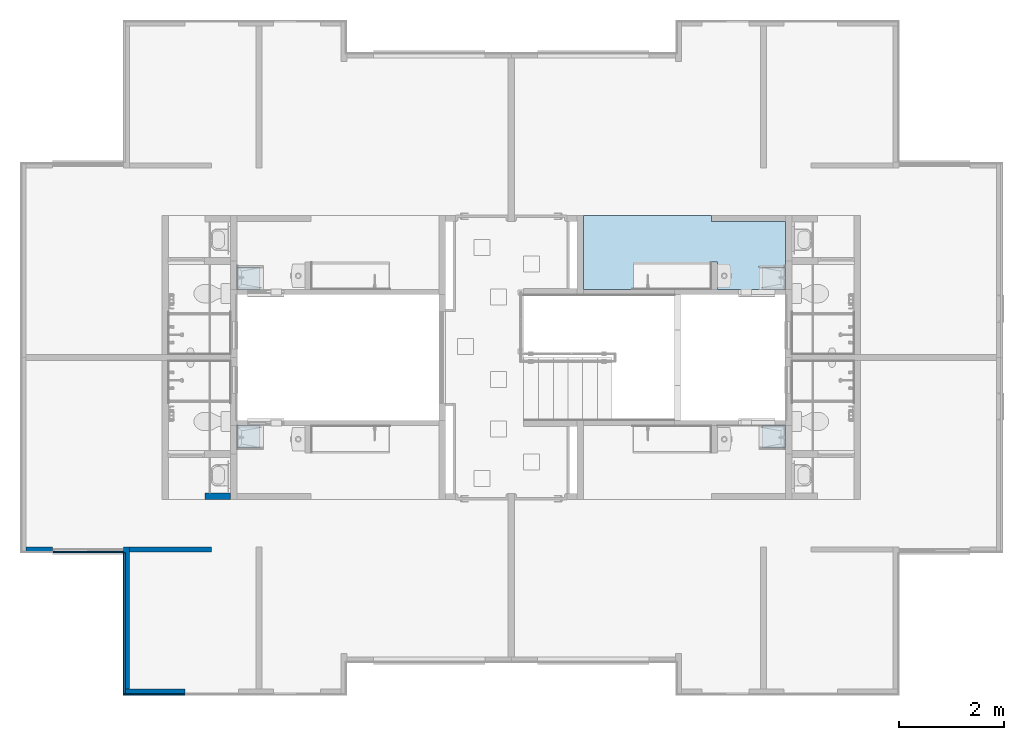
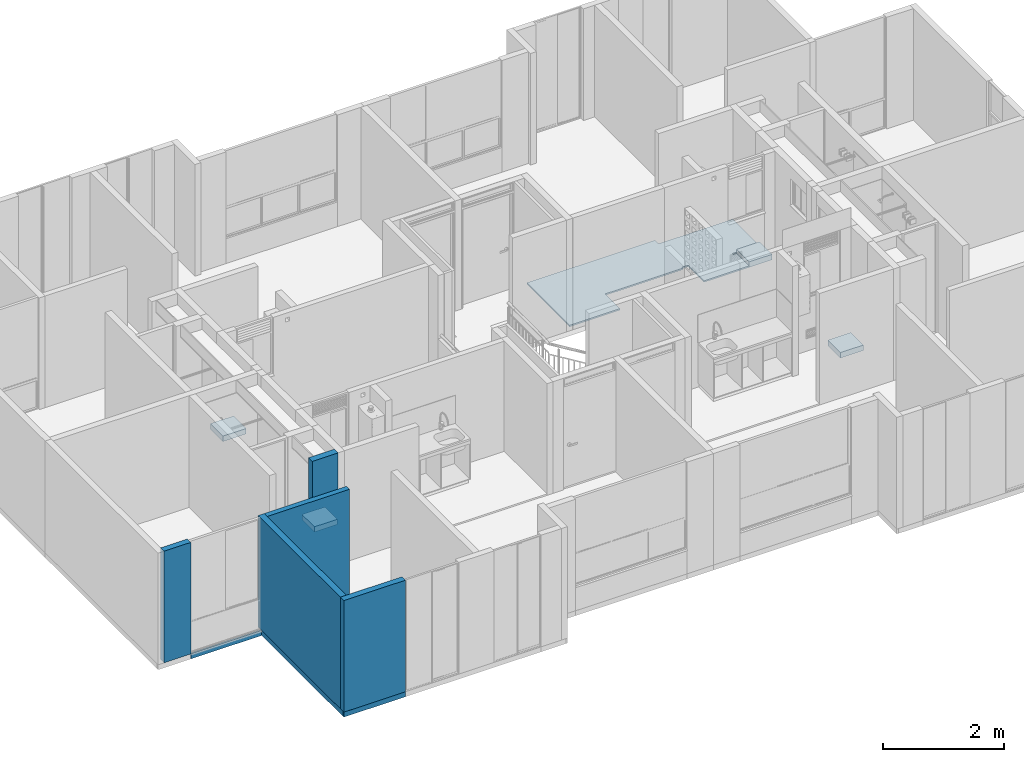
# One storey, part 3 of 47: 8 walls, 5 slabs.
"""IFC4 building model written with IfcOpenShell, lengths in metres."""

from ifc_helpers import new_model, entity, si_unit, converted_unit, derived_unit, direction, frame, origin, place, context, subcontext, project, spatial, indexed_curve, outline, extrude, material, constituent, constituent_set, type_object, element, save


model = new_model("IFC4")

# Units and contexts
model_context = context("Model", 3, precision=1e-05, world=origin(), true_north=direction((6.123031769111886e-17, 1.0)))
body_context = subcontext(model_context, "Body", "Model", "MODEL_VIEW")
ifc_project = project(units=[si_unit("LENGTHUNIT", "METRE"), si_unit("AREAUNIT", "SQUARE_METRE"), si_unit("VOLUMEUNIT", "CUBIC_METRE"), converted_unit("PLANEANGLEUNIT", "DEGREE", entity("IfcRatioMeasure", 0.017453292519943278), si_unit("PLANEANGLEUNIT", "RADIAN"), dimensions=[0, 0, 0, 0, 0, 0, 0]), si_unit("MASSUNIT", "GRAM", prefix="KILO"), derived_unit("MASSDENSITYUNIT", [(si_unit("MASSUNIT", "GRAM", prefix="KILO"), 1), (si_unit("LENGTHUNIT", "METRE"), -3)]), derived_unit("IONCONCENTRATIONUNIT", [(si_unit("MASSUNIT", "GRAM", prefix="KILO"), 1), (si_unit("LENGTHUNIT", "METRE"), -3)]), derived_unit("MOMENTOFINERTIAUNIT", [(si_unit("LENGTHUNIT", "METRE"), 4)]), si_unit("TIMEUNIT", "SECOND"), si_unit("FREQUENCYUNIT", "HERTZ"), si_unit("THERMODYNAMICTEMPERATUREUNIT", "DEGREE_CELSIUS"), derived_unit("THERMALTRANSMITTANCEUNIT", [(si_unit("MASSUNIT", "GRAM", prefix="KILO"), 1), (si_unit("THERMODYNAMICTEMPERATUREUNIT", "KELVIN"), -1), (si_unit("TIMEUNIT", "SECOND"), -3)]), derived_unit("THERMALCONDUCTANCEUNIT", [(si_unit("MASSUNIT", "GRAM", prefix="KILO"), 1), (si_unit("THERMODYNAMICTEMPERATUREUNIT", "KELVIN"), -1), (si_unit("TIMEUNIT", "SECOND"), -3), (si_unit("LENGTHUNIT", "METRE"), 1)]), derived_unit("VOLUMETRICFLOWRATEUNIT", [(si_unit("LENGTHUNIT", "METRE"), 3), (si_unit("TIMEUNIT", "SECOND"), -1)]), derived_unit("MASSFLOWRATEUNIT", [(si_unit("MASSUNIT", "GRAM", prefix="KILO"), 1), (si_unit("TIMEUNIT", "SECOND"), -1)]), derived_unit("ROTATIONALFREQUENCYUNIT", [(si_unit("TIMEUNIT", "SECOND"), -1)]), si_unit("ELECTRICCURRENTUNIT", "AMPERE"), si_unit("ELECTRICVOLTAGEUNIT", "VOLT"), si_unit("POWERUNIT", "WATT"), si_unit("FORCEUNIT", "NEWTON", prefix="KILO"), si_unit("ILLUMINANCEUNIT", "LUX"), si_unit("LUMINOUSFLUXUNIT", "LUMEN"), si_unit("LUMINOUSINTENSITYUNIT", "CANDELA"), derived_unit("USERDEFINED", [(si_unit("MASSUNIT", "GRAM", prefix="KILO"), -1), (si_unit("LENGTHUNIT", "METRE"), -2), (si_unit("TIMEUNIT", "SECOND"), 3), (si_unit("LUMINOUSFLUXUNIT", "LUMEN"), 1)]), derived_unit("USERDEFINED", [(si_unit("MASSUNIT", "GRAM", prefix="KILO"), 1), (si_unit("TIMEUNIT", "SECOND"), -3), (si_unit("LENGTHUNIT", "METRE"), 3), (si_unit("ELECTRICCURRENTUNIT", "AMPERE"), -2)]), derived_unit("SOUNDPOWERUNIT", [(si_unit("MASSUNIT", "GRAM", prefix="KILO"), 1), (si_unit("TIMEUNIT", "SECOND"), -3), (si_unit("LENGTHUNIT", "METRE"), 2)]), derived_unit("SOUNDPRESSUREUNIT", [(si_unit("MASSUNIT", "GRAM", prefix="KILO"), 1), (si_unit("LENGTHUNIT", "METRE"), -1), (si_unit("TIMEUNIT", "SECOND"), -2)]), derived_unit("LINEARVELOCITYUNIT", [(si_unit("LENGTHUNIT", "METRE"), 1), (si_unit("TIMEUNIT", "SECOND"), -1)]), si_unit("PRESSUREUNIT", "PASCAL"), derived_unit("USERDEFINED", [(si_unit("MASSUNIT", "GRAM", prefix="KILO"), 1), (si_unit("LENGTHUNIT", "METRE"), -2), (si_unit("TIMEUNIT", "SECOND"), -2)]), derived_unit("LINEARFORCEUNIT", [(si_unit("MASSUNIT", "GRAM", prefix="KILO"), 1), (si_unit("TIMEUNIT", "SECOND"), -2)]), derived_unit("PLANARFORCEUNIT", [(si_unit("MASSUNIT", "GRAM", prefix="KILO"), 1), (si_unit("LENGTHUNIT", "METRE"), -1), (si_unit("TIMEUNIT", "SECOND"), -2)]), derived_unit("SPECIFICHEATCAPACITYUNIT", [(si_unit("THERMODYNAMICTEMPERATUREUNIT", "KELVIN"), -1), (si_unit("LENGTHUNIT", "METRE"), 2), (si_unit("TIMEUNIT", "SECOND"), -2)]), derived_unit("HEATINGVALUEUNIT", [(si_unit("LENGTHUNIT", "METRE"), 2), (si_unit("TIMEUNIT", "SECOND"), -2)]), derived_unit("VAPORPERMEABILITYUNIT", [(si_unit("LENGTHUNIT", "METRE"), -1), (si_unit("TIMEUNIT", "SECOND"), 1)]), derived_unit("DYNAMICVISCOSITYUNIT", [(si_unit("MASSUNIT", "GRAM", prefix="KILO"), 1), (si_unit("TIMEUNIT", "SECOND"), -1), (si_unit("LENGTHUNIT", "METRE"), -1)]), derived_unit("THERMALEXPANSIONCOEFFICIENTUNIT", [(si_unit("THERMODYNAMICTEMPERATUREUNIT", "KELVIN"), -1)]), derived_unit("MODULUSOFELASTICITYUNIT", [(si_unit("MASSUNIT", "GRAM", prefix="KILO"), 1), (si_unit("LENGTHUNIT", "METRE"), -1), (si_unit("TIMEUNIT", "SECOND"), -2)]), derived_unit("ISOTHERMALMOISTURECAPACITYUNIT", [(si_unit("LENGTHUNIT", "METRE"), 3), (si_unit("MASSUNIT", "GRAM", prefix="KILO"), -1)]), derived_unit("MOISTUREDIFFUSIVITYUNIT", [(si_unit("TIMEUNIT", "SECOND"), -1), (si_unit("LENGTHUNIT", "METRE"), 2)])], contexts=[model_context])

# Site, building, storey
site_placement = place(None, origin())
site = spatial("IfcSite", under=ifc_project, at=site_placement, Name="Default", CompositionType="ELEMENT")
building_placement = place(site_placement, origin())
building = spatial("IfcBuilding", under=site, at=building_placement, CompositionType="ELEMENT")
storey_placement = place(building_placement, frame((0.0, 0.0, 11.750000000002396)))
storey = spatial("IfcBuildingStorey", under=building, at=storey_placement, Name="Nivel 6", CompositionType="ELEMENT", Elevation=11.750000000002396)

# Slabs
ifc_material_1 = material(Name="Ceramica 0.45m x 0.45m gris", Category="Materials")
ifc_constituent_1 = constituent(ifc_material_1, Name="Ceramica 0.45m x 0.45m gris", Category="Materials")
ifc_material_2 = material(Name="Mortero de pega", Category="Materials")
ifc_constituent_2 = constituent(ifc_material_2, Name="Mortero de pega", Category="Materials")
ifc_constituent_set_1 = constituent_set(constituents=[ifc_constituent_1, ifc_constituent_2], Name="Floor:C2030.20 - 0.45 x 0.45 - Enchape cerámico - Mortero de Pega + Cerámica gris")
slab_type_1 = type_object("IfcSlabType", Name="Floor:C2030.20 - 0.45 x 0.45 - Enchape cerámico - Mortero de Pega + Cerámica gris", PredefinedType="FLOOR", material=ifc_constituent_set_1)
slab_1_placement = place(storey_placement, origin())
element("IfcSlab", 1, at=slab_1_placement, inside=storey, type_object=slab_type_1, material=ifc_constituent_set_1, Name="Floor:C2030.20 - 0.45 x 0.45 - Enchape cerámico - Mortero de Pega + Cerámica gris", ObjectType="Floor:C2030.20 - 0.45 x 0.45 - Enchape cerámico - Mortero de Pega + Cerámica gris", PredefinedType="FLOOR", context=body_context, shape_type="SweptSolid", body=[
    extrude(outline(indexed_curve([(-0.06375012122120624, -0.8409999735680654), (2.381249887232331, -0.8409999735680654), (2.381249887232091, 0.5734999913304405), (1.4212498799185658, 0.5734999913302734), (1.4212498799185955, 0.08399999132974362), (-0.06375012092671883, 0.08399999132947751), (-0.06375012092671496, 0.05399999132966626), (-0.17875012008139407, 0.05399999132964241), (-0.17875012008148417, 0.5734999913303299), (-1.0387496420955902, 0.5734999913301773), (-1.0387496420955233, 0.15799999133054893), (-0.9787496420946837, 0.15799999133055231), (-0.9787496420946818, 0.12399999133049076), (-1.4787501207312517, 0.12399999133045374), (-1.4787501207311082, -0.7259999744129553), (-0.06375012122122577, -0.7259999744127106), (-0.06375012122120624, -0.8409999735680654)], self_intersect=False)), frame((13.078749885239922, -4.551000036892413, 0.019999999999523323), z_axis=(0.0, 0.0, 1.0), x_axis=(-1.0, 0.0, 0.0)), (0.0, 0.0, 1.0), 0.009999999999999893),
    extrude(outline(indexed_curve([(-0.06375012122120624, -0.8409999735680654), (2.381249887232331, -0.8409999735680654), (2.381249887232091, 0.5734999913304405), (1.4212498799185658, 0.5734999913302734), (1.4212498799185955, 0.08399999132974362), (-0.06375012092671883, 0.08399999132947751), (-0.0637501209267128, 0.05399999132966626), (-0.17875012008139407, 0.05399999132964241), (-0.17875012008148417, 0.5734999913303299), (-1.0387496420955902, 0.5734999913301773), (-1.0387496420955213, 0.15799999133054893), (-0.9787496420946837, 0.15799999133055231), (-0.9787496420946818, 0.12399999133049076), (-1.4787501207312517, 0.12399999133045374), (-1.478750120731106, -0.7259999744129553), (-0.06375012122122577, -0.7259999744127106), (-0.06375012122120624, -0.8409999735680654)], self_intersect=False)), frame((13.078749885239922, -4.551000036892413, 0.0), z_axis=(0.0, 0.0, 1.0), x_axis=(-1.0, 0.0, 0.0)), (0.0, 0.0, 1.0), 0.019999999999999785),
])
ifc_constituent_3 = constituent(ifc_material_1, Name="Ceramica 0.45m x 0.45m gris", Category="Materials")
ifc_material_3 = material(Name="Concreto (Aire)", Category="Materials")
ifc_constituent_4 = constituent(ifc_material_3, Name="Concreto (Aire)", Category="Materials")
ifc_constituent_set_2 = constituent_set(constituents=[ifc_constituent_3, ifc_constituent_4], Name="Floor:B1010 - 0.10m - Poyo - Concreto+ cerámica")
slab_type_2 = type_object("IfcSlabType", Name="Floor:B1010 - 0.10m - Poyo - Concreto+ cerámica", PredefinedType="FLOOR", material=ifc_constituent_set_2)
slab_2_placement = place(storey_placement, origin())
element("IfcSlab", 2, at=slab_2_placement, inside=storey, type_object=slab_type_2, material=ifc_constituent_set_2, Name="Floor:B1010 - 0.10m - Poyo - Concreto+ cerámica", ObjectType="Floor:B1010 - 0.10m - Poyo - Concreto+ cerámica", PredefinedType="FLOOR", context=body_context, shape_type="SweptSolid", body=[
    extrude(outline(indexed_curve([(-0.20774999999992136, -0.220000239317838), (0.20774999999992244, -0.220000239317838), (0.20774999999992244, 0.22000023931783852), (-0.20774999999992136, 0.22000023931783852), (-0.20774999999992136, -0.220000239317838)], self_intersect=False)), frame((4.307500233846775, -4.916750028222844, 0.09999999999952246), z_axis=(0.0, 0.0, 1.0), x_axis=(0.0, -1.0, 0.0)), (0.0, 0.0, 1.0), 0.009999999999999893),
    extrude(outline(indexed_curve([(-0.220000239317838, -0.20774999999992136), (0.22000023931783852, -0.20774999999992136), (0.22000023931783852, 0.20774999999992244), (-0.220000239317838, 0.20774999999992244), (-0.220000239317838, -0.20774999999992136)], self_intersect=False)), frame((4.307500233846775, -4.916750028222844, 0.0), z_axis=(0.0, 0.0, 1.0), x_axis=(-1.0, 0.0, 0.0)), (0.0, 0.0, 1.0), 0.10000000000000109),
])
slab_3_placement = place(storey_placement, origin())
element("IfcSlab", 3, at=slab_3_placement, inside=storey, type_object=slab_type_2, material=ifc_constituent_set_2, Name="Floor:B1010 - 0.10m - Poyo - Concreto+ cerámica", ObjectType="Floor:B1010 - 0.10m - Poyo - Concreto+ cerámica", PredefinedType="FLOOR", context=body_context, shape_type="SweptSolid", body=[
    extrude(outline(indexed_curve([(-0.2077499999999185, -0.220000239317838), (0.20774999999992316, -0.220000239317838), (0.20774999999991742, 0.22000023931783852), (-0.20774999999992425, 0.22000023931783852), (-0.2077499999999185, -0.220000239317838)], self_intersect=False)), frame((4.307500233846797, -7.933250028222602, 0.09999999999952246), z_axis=(0.0, 0.0, 1.0), x_axis=(0.0, 1.0, 0.0)), (0.0, 0.0, 1.0), 0.009999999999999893),
    extrude(outline(indexed_curve([(-0.2077499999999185, -0.220000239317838), (0.20774999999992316, -0.220000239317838), (0.20774999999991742, 0.22000023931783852), (-0.20774999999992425, 0.22000023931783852), (-0.2077499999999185, -0.220000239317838)], self_intersect=False)), frame((4.307500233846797, -7.933250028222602, 0.0), z_axis=(0.0, 0.0, 1.0), x_axis=(0.0, 1.0, 0.0)), (0.0, 0.0, 1.0), 0.10000000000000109),
])
slab_4_placement = place(storey_placement, origin())
element("IfcSlab", 4, at=slab_4_placement, inside=storey, type_object=slab_type_2, material=ifc_constituent_set_2, Name="Floor:B1010 - 0.10m - Poyo - Concreto+ cerámica", ObjectType="Floor:B1010 - 0.10m - Poyo - Concreto+ cerámica", PredefinedType="FLOOR", context=body_context, shape_type="SweptSolid", body=[
    extrude(outline(indexed_curve([(-0.20774999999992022, -0.220000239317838), (0.20774999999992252, -0.220000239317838), (0.20774999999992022, 0.220000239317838), (-0.20774999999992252, 0.220000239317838), (-0.20774999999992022, -0.220000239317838)], self_intersect=False)), frame((14.33749976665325, -4.916750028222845, 0.09999999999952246), z_axis=(0.0, 0.0, 1.0), x_axis=(0.0, -1.0, 0.0)), (0.0, 0.0, 1.0), 0.009999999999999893),
    extrude(outline(indexed_curve([(-0.20774999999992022, -0.220000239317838), (0.20774999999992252, -0.220000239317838), (0.20774999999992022, 0.220000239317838), (-0.20774999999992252, 0.220000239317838), (-0.20774999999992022, -0.220000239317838)], self_intersect=False)), frame((14.33749976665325, -4.916750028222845, 0.0), z_axis=(0.0, 0.0, 1.0), x_axis=(0.0, -1.0, 0.0)), (0.0, 0.0, 1.0), 0.10000000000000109),
])
slab_5_placement = place(storey_placement, origin())
element("IfcSlab", 5, at=slab_5_placement, inside=storey, type_object=slab_type_2, material=ifc_constituent_set_2, Name="Floor:B1010 - 0.10m - Poyo - Concreto+ cerámica", ObjectType="Floor:B1010 - 0.10m - Poyo - Concreto+ cerámica", PredefinedType="FLOOR", context=body_context, shape_type="SweptSolid", body=[
    extrude(outline(indexed_curve([(-0.2077499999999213, -0.22000023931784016), (0.20774999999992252, -0.22000023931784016), (0.20774999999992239, 0.22000023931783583), (-0.20774999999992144, 0.22000023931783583), (-0.2077499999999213, -0.22000023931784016)], self_intersect=False)), frame((14.337499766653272, -7.9332500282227, 0.09999999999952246), z_axis=(0.0, 0.0, 1.0), x_axis=(0.0, 1.0, 0.0)), (0.0, 0.0, 1.0), 0.009999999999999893),
    extrude(outline(indexed_curve([(-0.22000023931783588, -0.20774999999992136), (0.22000023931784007, -0.20774999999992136), (0.2200002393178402, 0.20774999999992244), (-0.22000023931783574, 0.20774999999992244), (-0.22000023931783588, -0.20774999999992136)], self_intersect=False)), frame((14.337499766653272, -7.9332500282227, 0.0)), (0.0, 0.0, 1.0), 0.10000000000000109),
])

# Walls
ifc_material_4 = material(Name="Ladrillo claro (Aire)", Category="Materials")
wall_type_1 = type_object("IfcWallType", Name="Basic Wall:B2010 - 0.115m - Muro exterior en mampostería - Ladrillo", PredefinedType="STANDARD")
wall_1_placement = place(storey_placement, frame((1.9749999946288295, -10.040000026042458, 0.0), z_axis=(0.0, 0.0, 1.0), x_axis=(0.0, -1.0, 0.0)))
element("IfcWall", 6, at=wall_1_placement, inside=storey, type_object=wall_type_1, material=ifc_material_4, Name="Basic Wall:B2010 - 0.115m - Muro exterior en mampostería - Ladrillo", ObjectType="Basic Wall:B2010 - 0.115m - Muro exterior en mampostería - Ladrillo", PredefinedType="NOTDEFINED", context=body_context, shape_type="SweptSolid", body=[
    extrude(outline(indexed_curve([(2.7150000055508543, 0.057499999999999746), (-4.491472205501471e-16, 0.057499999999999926), (4.491472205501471e-16, -0.057499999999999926), (2.7150000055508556, -0.0575000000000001), (2.7150000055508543, 0.057499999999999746)], self_intersect=False)), origin(), (0.0, 0.0, 1.0), 2.2500000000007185),
])
ifc_material_5 = material(Name="LADRILLO CLARO", Category="Materials")
wall_type_2 = type_object("IfcWallType", Name="Basic Wall:B2010 - 0.115m - ME mampostería no estructural - Ladrillo", PredefinedType="STANDARD")
wall_2_placement = place(storey_placement, frame((0.05749999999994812, -10.097500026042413, 0.0)))
element("IfcWall", 7, at=wall_2_placement, inside=storey, type_object=wall_type_2, material=ifc_material_5, Name="Basic Wall:B2010 - 0.115m - ME mampostería no estructural - Ladrillo", ObjectType="Basic Wall:B2010 - 0.115m - ME mampostería no estructural - Ladrillo", PredefinedType="NOTDEFINED", context=body_context, shape_type="SweptSolid", body=[
    extrude(outline(indexed_curve([(0.5099999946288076, 0.05750000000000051), (-1.1781093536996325e-18, 0.057499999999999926), (-7.281790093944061e-18, -0.057499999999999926), (0.5099999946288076, -0.057499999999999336), (0.5099999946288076, 0.05750000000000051)], self_intersect=False)), origin(), (0.0, 0.0, 1.0), 2.250000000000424),
])
wall_3_placement = place(storey_placement, frame((3.091699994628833, -12.812500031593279, 0.0), z_axis=(0.0, 0.0, 1.0), x_axis=(-1.0, 0.0, 0.0)))
element("IfcWall", 8, at=wall_3_placement, inside=storey, type_object=wall_type_2, material=ifc_material_5, Name="Basic Wall:B2010 - 0.115m - ME mampostería no estructural - Ladrillo", ObjectType="Basic Wall:B2010 - 0.115m - ME mampostería no estructural - Ladrillo", PredefinedType="NOTDEFINED", context=body_context, shape_type="SweptSolid", body=[
    extrude(outline(indexed_curve([(1.174199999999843, 0.05749999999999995), (-3.1925536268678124e-16, 0.057499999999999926), (-2.2217820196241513e-16, -0.057499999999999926), (1.174199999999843, -0.0574999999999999), (1.174199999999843, 0.05749999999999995)], self_intersect=False)), origin(), (0.0, 0.0, 1.0), 2.2500000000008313),
])
wall_type_3 = type_object("IfcWallType", Name="Basic Wall:B2010 - 0.10m - Muro interior en concreto", PredefinedType="STANDARD")
wall_4_placement = place(storey_placement, frame((2.0324999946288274, -10.090000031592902, 0.0)))
element("IfcWall", 9, at=wall_4_placement, inside=storey, type_object=wall_type_3, material=ifc_material_3, Name="Basic Wall:B2010 - 0.10m - Muro interior en concreto", ObjectType="Basic Wall:B2010 - 0.10m - Muro interior en concreto", PredefinedType="NOTDEFINED", context=body_context, shape_type="SweptSolid", body=[
    extrude(outline(indexed_curve([(1.5699999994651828, 0.050000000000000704), (1.2587085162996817e-16, 0.04999999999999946), (-1.2587085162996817e-16, -0.04999999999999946), (1.5699999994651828, -0.04999999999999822), (1.5699999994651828, 0.050000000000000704)], self_intersect=False)), origin(), (0.0, 0.0, 1.0), 2.2499999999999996),
])
ifc_material_6 = material(Name="Pañete", Category="Materials")
ifc_constituent_5 = constituent(ifc_material_6, Name="Pañete", Category="Materials")
ifc_constituent_6 = constituent(ifc_material_4, Name="Ladrillo claro (Aire)", Category="Materials")
ifc_constituent_set_3 = constituent_set(constituents=[ifc_constituent_5, ifc_constituent_6], Name="Basic Wall:B2010 - 0.115m - Muro interior en mampostería - Ladrillo + Pañete")
wall_type_4 = type_object("IfcWallType", Name="Basic Wall:B2010 - 0.115m - Muro interior en mampostería - Ladrillo + Pañete", PredefinedType="STANDARD", material=ifc_constituent_set_3)
wall_5_placement = place(storey_placement, frame((3.4724999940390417, -9.077499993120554, 0.0)))
element("IfcWall", 10, at=wall_5_placement, inside=storey, type_object=wall_type_4, material=ifc_constituent_set_3, Name="Basic Wall:B2010 - 0.115m - Muro interior en mampostería - Ladrillo + Pañete", ObjectType="Basic Wall:B2010 - 0.115m - Muro interior en mampostería - Ladrillo + Pañete", PredefinedType="NOTDEFINED", context=body_context, shape_type="SweptSolid", body=[
    extrude(outline(indexed_curve([(-0.004999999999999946, -0.24500000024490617), (0.004999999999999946, -0.24500000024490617), (0.005000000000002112, 0.24500000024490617), (-0.004999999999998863, 0.24500000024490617), (-0.004999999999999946, -0.24500000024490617)], self_intersect=False)), frame((0.24500000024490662, 0.057499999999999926, 0.0), z_axis=(0.0, 0.0, 1.0), x_axis=(0.0, -1.0, 0.0)), (0.0, 0.0, 1.0), 2.2500000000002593),
    extrude(outline(indexed_curve([(-0.057499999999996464, -0.2450000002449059), (0.0575000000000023, -0.2450000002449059), (0.057499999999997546, 0.24500000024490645), (-0.0575000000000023, 0.24500000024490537), (-0.057499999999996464, -0.2450000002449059)], self_intersect=False)), frame((0.24500000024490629, -0.005000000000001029, 0.0), z_axis=(0.0, 0.0, 1.0), x_axis=(0.0, 1.0, 0.0)), (0.0, 0.0, 1.0), 2.2500000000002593),
])
wall_type_5 = type_object("IfcWallType", Name="Basic Wall:B2010 - 0.03m - ME enchape  no estructural - Ladrillo", PredefinedType="STANDARD")
wall_6_placement = place(storey_placement, frame((1.9324999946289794, -12.84000003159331, -0.10000000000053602), z_axis=(0.0, 0.0, 1.0), x_axis=(0.0, 1.0, 0.0)))
element("IfcWall", 11, at=wall_6_placement, inside=storey, type_object=wall_type_5, material=ifc_material_5, Name="Basic Wall:B2010 - 0.03m - ME enchape  no estructural - Ladrillo", ObjectType="Basic Wall:B2010 - 0.03m - ME enchape  no estructural - Ladrillo", PredefinedType="NOTDEFINED", context=body_context, shape_type="SweptSolid", body=[
    extrude(outline(indexed_curve([(2.6836602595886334, 0.015000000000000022), (2.4689444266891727e-17, 0.015000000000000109), (-2.4689444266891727e-17, -0.015000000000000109), (2.6836602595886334, -0.015000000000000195), (2.6836602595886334, 0.015000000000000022)], self_intersect=False)), origin(), (0.0, 0.0, 1.0), 0.09999999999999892),
])
wall_7_placement = place(storey_placement, frame((3.0924999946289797, -12.855000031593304, -0.10000000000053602), z_axis=(0.0, 0.0, 1.0), x_axis=(-1.0, 0.0, 0.0)))
element("IfcWall", 12, at=wall_7_placement, inside=storey, type_object=wall_type_5, material=ifc_material_5, Name="Basic Wall:B2010 - 0.03m - ME enchape  no estructural - Ladrillo", ObjectType="Basic Wall:B2010 - 0.03m - ME enchape  no estructural - Ladrillo", PredefinedType="NOTDEFINED", context=body_context, shape_type="SweptSolid", body=[
    extrude(outline(indexed_curve([(1.1750000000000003, 0.015000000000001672), (4.570130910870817e-17, 0.015000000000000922), (-4.570130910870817e-17, -0.015000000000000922), (1.1750000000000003, -0.015000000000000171), (1.1750000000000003, 0.015000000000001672)], self_intersect=False)), origin(), (0.0, 0.0, 1.0), 0.09999999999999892),
])
wall_8_placement = place(storey_placement, frame((0.5674999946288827, -10.140000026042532, -0.10000000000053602)))
element("IfcWall", 13, at=wall_8_placement, inside=storey, type_object=wall_type_5, material=ifc_material_5, Name="Basic Wall:B2010 - 0.03m - ME enchape  no estructural - Ladrillo", ObjectType="Basic Wall:B2010 - 0.03m - ME enchape  no estructural - Ladrillo", PredefinedType="NOTDEFINED", context=body_context, shape_type="SweptSolid", body=[
    extrude(outline(indexed_curve([(1.3500000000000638, 0.015000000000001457), (-3.150138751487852e-17, 0.015000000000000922), (3.150138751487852e-17, -0.015000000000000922), (1.3500000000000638, -0.015000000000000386), (1.3500000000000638, 0.015000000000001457)], self_intersect=False)), origin(), (0.0, 0.0, 1.0), 0.09999999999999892),
])

save(model, "model.ifc")
